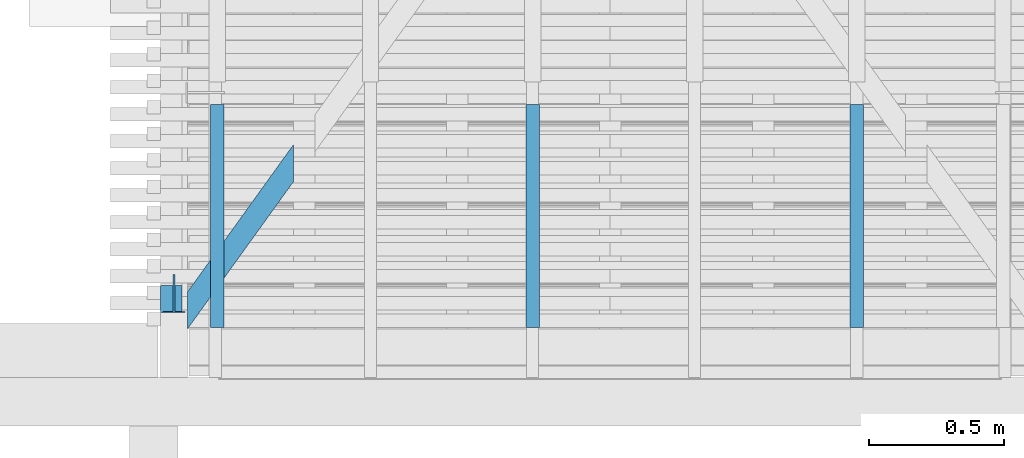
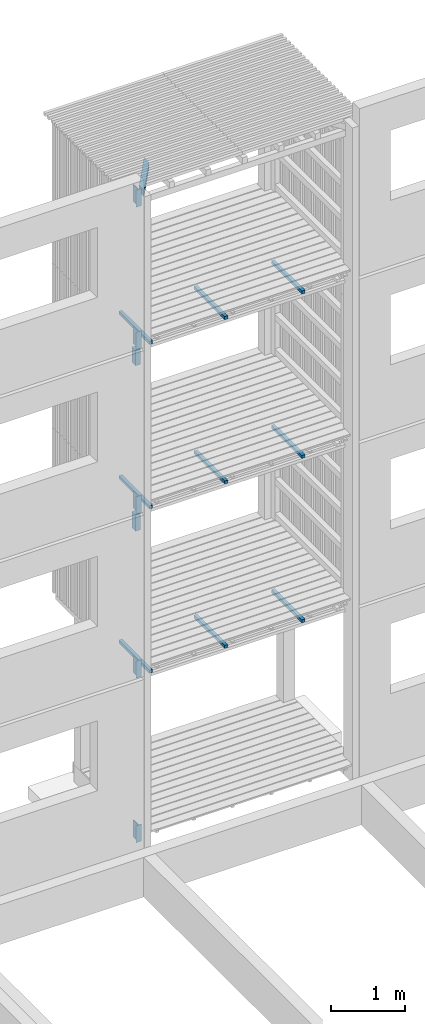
# One storey, part 171 of 182: 17 beams.
"""IFC2X3 building model written with IfcOpenShell, lengths in metres."""

import ifcopenshell
import ifcopenshell.guid

model = None  # the IFC model being written
_history = None  # IfcOwnerHistory: only IFC2X3 demands one
_inside = {}  # id of a spatial element -> (the spatial element, [elements in it])
_under = {}  # id of a project, library or spatial element -> (it, [spatial elements below it])
_declared = {}  # id of a project -> (the project, [libraries it declares])
_typed = {}  # id of a type object -> (the type object, [elements of that type])
_made_of = {}  # id of a material, layer set ... -> (it, [elements and type objects made of it])


def new_model(schema):
    """Start an empty IFC model of exactly this schema.

    Asked for "IFC4X3", IfcOpenShell would pick the latest addendum, in which some entities
    have other attributes; the version numbers below select the first issue.
    IFC2X3 requires an IfcOwnerHistory on every rooted entity: one is made here for all.
    """
    global model, _history
    if schema == "IFC4X3":
        model = ifcopenshell.file(schema_version=(4, 3, 0, 0))
    else:
        model = ifcopenshell.file(schema=schema)
    _inside.clear()
    _under.clear()
    _declared.clear()
    _typed.clear()
    _made_of.clear()
    _history = None
    if model.schema == "IFC2X3":
        org = make("IfcOrganization", Name="unknown")
        user = make(
            "IfcPersonAndOrganization",
            ThePerson=make("IfcPerson", FamilyName="unknown"),
            TheOrganization=org,
        )
        app = make(
            "IfcApplication",
            ApplicationDeveloper=org,
            Version="unknown",
            ApplicationFullName="unknown",
            ApplicationIdentifier="unknown",
        )
        _history = make(
            "IfcOwnerHistory",
            OwningUser=user,
            OwningApplication=app,
            ChangeAction="ADDED",
            CreationDate=0,
        )
    return model


def make(cls, **values):
    """One entity of the class cls with the attributes given. An attribute that is None is left unset."""
    return model.create_entity(
        cls, **{name: value for name, value in values.items() if value is not None}
    )


def rooted(cls, **values):
    """An entity with a GlobalId (a new one), such as an element, a storey or a relation."""
    return make(cls, GlobalId=ifcopenshell.guid.new(), OwnerHistory=_history, **values)


def si_unit(unit_type, name, prefix=None):
    """IfcSIUnit, for example si_unit("LENGTHUNIT", "METRE", prefix="MILLI")."""
    return make("IfcSIUnit", UnitType=unit_type, Prefix=prefix, Name=name)


def assignment(units):
    """IfcUnitAssignment: the units of a project."""
    return None if units is None else make("IfcUnitAssignment", Units=units)


def point(xyz):
    """IfcCartesianPoint."""
    return None if xyz is None else make("IfcCartesianPoint", Coordinates=xyz)


def direction(xyz):
    """IfcDirection."""
    return None if xyz is None else make("IfcDirection", DirectionRatios=xyz)


def frame(location, z_axis=None, x_axis=None):
    """IfcAxis2Placement3D, a coordinate frame: its origin and axes. An axis left out is left unset."""
    return make(
        "IfcAxis2Placement3D",
        Location=point(location),
        Axis=direction(z_axis),
        RefDirection=direction(x_axis),
    )


def origin():
    """The frame at (0, 0, 0) with its axes left unset."""
    return frame((0.0, 0.0, 0.0))


def place(relative_to, where):
    """IfcLocalPlacement: puts the frame where relative to a parent placement (None: the world)."""
    return make(
        "IfcLocalPlacement", PlacementRelTo=relative_to, RelativePlacement=where
    )


def context(
    kind, dimensions, precision=None, world=None, true_north=None, identifier=None
):
    """IfcGeometricRepresentationContext, for example the 3D "Model" context."""
    return make(
        "IfcGeometricRepresentationContext",
        ContextIdentifier=identifier,
        ContextType=kind,
        CoordinateSpaceDimension=dimensions,
        Precision=precision,
        WorldCoordinateSystem=world,
        TrueNorth=true_north,
    )


def project(units=None, contexts=None):
    """IfcProject with its units and contexts."""
    return rooted(
        "IfcProject",
        Name="project",
        RepresentationContexts=contexts,
        UnitsInContext=assignment(units),
    )


def spatial(cls, under=None, at=None, **own):
    """A site, building, storey or space (cls), placed at a placement, below another one or the project."""
    s = rooted(cls, ObjectPlacement=at, **own)
    if under is not None:
        _under.setdefault(under.id(), (under, []))[1].append(s)
    return s


def faces_of(points, faces, orient=None, outer=None):
    """IfcFace entities. A face is a list of loops; a loop is a list of indices into points, from 0.

    orient and outer hold one flag for each loop. By default every Orientation is true, the
    first loop of a face is its IfcFaceOuterBound and the others are IfcFaceBound.
    """
    made = []
    for i, loops in enumerate(faces):
        bounds = []
        for j, loop in enumerate(loops):
            is_outer = j == 0 if outer is None else outer[i][j]
            bounds.append(
                make(
                    "IfcFaceOuterBound" if is_outer else "IfcFaceBound",
                    Bound=make("IfcPolyLoop", Polygon=[points[k] for k in loop]),
                    Orientation=True if orient is None else orient[i][j],
                )
            )
        made.append(make("IfcFace", Bounds=bounds))
    return made


def faceted_brep(points, faces, orient=None, outer=None, voids=None):
    """IfcFacetedBrep: a solid bounded by flat faces; with voids (closed shells), ...WithVoids."""
    shared = [point(p) for p in points]
    hull = make("IfcClosedShell", CfsFaces=faces_of(shared, faces, orient, outer))
    if voids is None:
        return make("IfcFacetedBrep", Outer=hull)
    return make(
        "IfcFacetedBrepWithVoids",
        Outer=hull,
        Voids=[
            make(cls, CfsFaces=faces_of(shared, fs, o, b)) for cls, fs, o, b in voids
        ],
    )


def shape(context_of_items, identifier, shape_type, items):
    """IfcShapeRepresentation: the items that make up one representation, for example the "Body"."""
    return make(
        "IfcShapeRepresentation",
        ContextOfItems=context_of_items,
        RepresentationIdentifier=identifier,
        RepresentationType=shape_type,
        Items=items,
    )


def made_of(thing, what):
    """Note that an element or type object is made of a material, layer set ...; save() writes the relation."""
    if what is not None:
        _made_of.setdefault(what.id(), (what, []))[1].append(thing)
    return thing


def element(
    cls,
    number,
    at=None,
    inside=None,
    cuts=None,
    type_object=None,
    material=None,
    context=None,
    identifier="Body",
    shape_type=None,
    held_by="IfcProductDefinitionShape",
    body=None,
    shapes=None,
    **own,
):
    """One element of the class cls, such as IfcWall. Its Tag is "e" and its number.

    at: its placement. inside: the storey or other place that contains it. cuts: it is an
    opening in that element (IfcRelVoidsElement). A single representation is given by context,
    identifier, shape_type and body (its items); several are given by shapes. held_by: the class
    of the entity that holds the representations. save() writes the other relations.
    """
    e = rooted(cls, Tag="e%d" % number, ObjectPlacement=at, **own)
    if body is not None:
        shapes = [shape(context, identifier, shape_type, body)]
    if shapes is not None:
        e.Representation = make(held_by, Representations=shapes)
    if inside is not None:
        _inside.setdefault(inside.id(), (inside, []))[1].append(e)
    if cuts is not None:
        rooted(
            "IfcRelVoidsElement", RelatingBuildingElement=cuts, RelatedOpeningElement=e
        )
    if type_object is not None:
        _typed.setdefault(type_object.id(), (type_object, []))[1].append(e)
    return made_of(e, material)


def aggregate(whole, parts):
    """IfcRelAggregates: a whole, such as a stair, and the parts it consists of."""
    return rooted("IfcRelAggregates", RelatingObject=whole, RelatedObjects=parts)


def save(model, path):
    """Write the relations noted so far, then the file.

    IfcRelAggregates (storeys below a building ...), IfcRelContainedInSpatialStructure (elements
    in a storey), IfcRelDefinesByType, IfcRelAssociatesMaterial and IfcRelDeclares: one each for
    every whole, place, type object, material and project.
    """
    for whole, parts in _under.values():
        aggregate(whole, parts)
    for where, things in _inside.values():
        rooted(
            "IfcRelContainedInSpatialStructure",
            RelatedElements=things,
            RelatingStructure=where,
        )
    for kind, things in _typed.values():
        rooted("IfcRelDefinesByType", RelatedObjects=things, RelatingType=kind)
    for what, things in _made_of.values():
        rooted("IfcRelAssociatesMaterial", RelatedObjects=things, RelatingMaterial=what)
    for by, libraries in _declared.values():
        rooted("IfcRelDeclares", RelatingContext=by, RelatedDefinitions=libraries)
    model.write(path)


model = new_model("IFC2X3")

# Units and contexts
model_context = context("Model", 3, precision=1e-06, world=origin())
ifc_project = project(units=[si_unit("LENGTHUNIT", "METRE"), si_unit("PLANEANGLEUNIT", "RADIAN")], contexts=[model_context])

# Site, building, storey
site = spatial("IfcSite", under=ifc_project, CompositionType="ELEMENT")
building = spatial("IfcBuilding", under=site, CompositionType="ELEMENT")
storey = spatial("IfcBuildingStorey", under=building, Name="vs", CompositionType="ELEMENT", Elevation=-0.85)

# Beams
placement = place(None, origin())
beam_1_placement = place(placement, frame((43.02440135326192, 5.181077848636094, 10.314999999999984), z_axis=(0.0, 0.0, 1.0), x_axis=(1.0, 0.0, 0.0)))
element("IfcBeam", 1, at=beam_1_placement, inside=storey, Name="Contre-usinage", context=model_context, shape_type="Brep", body=[
    faceted_brep([(0.037000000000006, -0.065999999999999, -0.140000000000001), (0.037000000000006, 0.071000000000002, -0.140000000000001), (0.045000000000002, 0.071000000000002, -0.140000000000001), (0.045000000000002, -0.065999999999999, -0.140000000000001), (0.081999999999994, -0.065999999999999, -0.140000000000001), (0.081999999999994, -0.071000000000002, -0.140000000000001), (0.0, -0.071000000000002, -0.140000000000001), (0.0, -0.065999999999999, -0.140000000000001), (0.045000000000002, 0.071000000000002, -0.140000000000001), (0.037000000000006, 0.071000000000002, -0.140000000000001), (0.037000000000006, 0.071000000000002, 0.140000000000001), (0.045000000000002, 0.071000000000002, 0.140000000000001), (0.045000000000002, -0.065999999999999, 0.140000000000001), (0.045000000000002, -0.065999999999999, -0.140000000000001), (0.045000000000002, 0.071000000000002, -0.140000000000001), (0.045000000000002, 0.071000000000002, 0.140000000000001), (0.081999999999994, -0.065999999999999, -0.140000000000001), (0.045000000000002, -0.065999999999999, -0.140000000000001), (0.045000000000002, -0.065999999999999, 0.140000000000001), (0.081999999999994, -0.065999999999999, 0.140000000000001), (0.081999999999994, -0.071000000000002, -0.140000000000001), (0.081999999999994, -0.065999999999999, -0.140000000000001), (0.081999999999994, -0.065999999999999, 0.140000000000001), (0.081999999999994, -0.071000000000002, 0.140000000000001), (0.0, -0.071000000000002, -0.140000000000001), (0.081999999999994, -0.071000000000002, -0.140000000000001), (0.081999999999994, -0.071000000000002, 0.140000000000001), (0.0, -0.071000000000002, 0.140000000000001), (0.0, -0.065999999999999, -0.140000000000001), (0.0, -0.071000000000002, -0.140000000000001), (0.0, -0.071000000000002, 0.140000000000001), (0.0, -0.065999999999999, 0.140000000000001), (0.037000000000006, -0.065999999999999, -0.140000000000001), (0.0, -0.065999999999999, -0.140000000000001), (0.0, -0.065999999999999, 0.140000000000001), (0.037000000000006, -0.065999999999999, 0.140000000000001), (0.037000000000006, 0.071000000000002, 0.140000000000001), (0.037000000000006, 0.071000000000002, -0.140000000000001), (0.037000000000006, -0.065999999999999, -0.140000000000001), (0.037000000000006, -0.065999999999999, 0.140000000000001), (0.081999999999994, -0.065999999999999, 0.140000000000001), (0.045000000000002, -0.065999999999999, 0.140000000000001), (0.045000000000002, 0.071000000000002, 0.140000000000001), (0.037000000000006, 0.071000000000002, 0.140000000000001), (0.037000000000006, -0.065999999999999, 0.140000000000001), (0.0, -0.065999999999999, 0.140000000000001), (0.0, -0.071000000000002, 0.140000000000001), (0.081999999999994, -0.071000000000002, 0.140000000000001)], [[[0, 1, 2, 3, 4, 5, 6, 7]], [[8, 9, 10, 11]], [[12, 13, 14, 15]], [[16, 17, 18, 19]], [[20, 21, 22, 23]], [[24, 25, 26, 27]], [[28, 29, 30, 31]], [[32, 33, 34, 35]], [[36, 37, 38, 39]], [[40, 41, 42, 43, 44, 45, 46, 47]]]),
])
beam_2_placement = place(placement, frame((43.225401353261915, 5.055077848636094, 2.517999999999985), z_axis=(0.0, 0.0, 1.0), x_axis=(0.0, 1.0, 0.0)))
element("IfcBeam", 2, at=beam_2_placement, inside=storey, Name="Calage", context=model_context, shape_type="Brep", body=[
    faceted_brep([(0.824999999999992, -0.025000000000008, 0.025), (0.824999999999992, 0.024999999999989, 0.025), (-1e-15, 0.024999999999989, 0.025), (-1e-15, -0.025000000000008, 0.025), (-1e-15, 0.024999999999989, 0.025), (0.824999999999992, 0.024999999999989, 0.025), (0.824999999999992, 0.024999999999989, -0.025), (-1e-15, 0.024999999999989, -0.025), (0.824999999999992, 0.024999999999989, 0.025), (0.824999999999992, -0.025000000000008, 0.025), (0.824999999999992, -0.025000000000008, -0.025), (0.824999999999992, 0.024999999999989, -0.025), (0.824999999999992, -0.025000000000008, -0.025), (0.824999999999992, -0.025000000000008, 0.025), (-1e-15, -0.025000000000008, 0.025), (-1e-15, -0.025000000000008, -0.025), (-1e-15, 0.024999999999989, -0.025), (0.824999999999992, 0.024999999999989, -0.025), (0.824999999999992, -0.025000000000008, -0.025), (-1e-15, -0.025000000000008, -0.025), (-1e-15, 0.024999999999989, 0.025), (-1e-15, 0.024999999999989, -0.025), (-1e-15, -0.025000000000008, -0.025), (-1e-15, -0.025000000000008, 0.025)], [[[0, 1, 2, 3]], [[4, 5, 6, 7]], [[8, 9, 10, 11]], [[12, 13, 14, 15]], [[16, 17, 18, 19]], [[20, 21, 22, 23]]]),
])
beam_3_placement = place(placement, frame((44.39340135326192, 5.055077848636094, 7.917999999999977), z_axis=(0.0, 0.0, 1.0), x_axis=(0.0, 1.0, 0.0)))
element("IfcBeam", 3, at=beam_3_placement, inside=storey, Name="Calage", context=model_context, shape_type="Brep", body=[
    faceted_brep([(0.824999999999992, -0.024999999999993, 0.024999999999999), (0.824999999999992, 0.025000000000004, 0.024999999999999), (-1e-15, 0.025000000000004, 0.024999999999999), (-1e-15, -0.024999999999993, 0.024999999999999), (-1e-15, 0.025000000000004, 0.024999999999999), (0.824999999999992, 0.025000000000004, 0.024999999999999), (0.824999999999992, 0.025000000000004, -0.025), (-1e-15, 0.025000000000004, -0.025), (0.824999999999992, 0.025000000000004, 0.024999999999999), (0.824999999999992, -0.024999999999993, 0.024999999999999), (0.824999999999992, -0.024999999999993, -0.025), (0.824999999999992, 0.025000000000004, -0.025), (0.824999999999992, -0.024999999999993, -0.025), (0.824999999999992, -0.024999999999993, 0.024999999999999), (-1e-15, -0.024999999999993, 0.024999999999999), (-1e-15, -0.024999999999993, -0.025), (-1e-15, 0.025000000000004, -0.025), (0.824999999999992, 0.025000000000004, -0.025), (0.824999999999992, -0.024999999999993, -0.025), (-1e-15, -0.024999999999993, -0.025), (-1e-15, 0.025000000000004, 0.024999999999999), (-1e-15, 0.025000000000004, -0.025), (-1e-15, -0.024999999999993, -0.025), (-1e-15, -0.024999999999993, 0.024999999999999)], [[[0, 1, 2, 3]], [[4, 5, 6, 7]], [[8, 9, 10, 11]], [[12, 13, 14, 15]], [[16, 17, 18, 19]], [[20, 21, 22, 23]]]),
])
beam_4_placement = place(placement, frame((45.59340135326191, 5.055077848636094, 7.917999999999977), z_axis=(0.0, 0.0, 1.0), x_axis=(0.0, 1.0, 0.0)))
element("IfcBeam", 4, at=beam_4_placement, inside=storey, Name="Calage", context=model_context, shape_type="Brep", body=[
    faceted_brep([(0.824999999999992, -0.025000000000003, 0.024999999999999), (0.824999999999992, 0.024999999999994, 0.024999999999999), (-1e-15, 0.024999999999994, 0.024999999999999), (-1e-15, -0.025000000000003, 0.024999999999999), (-1e-15, 0.024999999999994, 0.024999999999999), (0.824999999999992, 0.024999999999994, 0.024999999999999), (0.824999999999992, 0.024999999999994, -0.025), (-1e-15, 0.024999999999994, -0.025), (0.824999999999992, 0.024999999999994, 0.024999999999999), (0.824999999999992, -0.025000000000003, 0.024999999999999), (0.824999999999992, -0.025000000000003, -0.025), (0.824999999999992, 0.024999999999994, -0.025), (0.824999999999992, -0.025000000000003, -0.025), (0.824999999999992, -0.025000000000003, 0.024999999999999), (-1e-15, -0.025000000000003, 0.024999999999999), (-1e-15, -0.025000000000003, -0.025), (-1e-15, 0.024999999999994, -0.025), (0.824999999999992, 0.024999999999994, -0.025), (0.824999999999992, -0.025000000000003, -0.025), (-1e-15, -0.025000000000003, -0.025), (-1e-15, 0.024999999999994, 0.024999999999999), (-1e-15, 0.024999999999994, -0.025), (-1e-15, -0.025000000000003, -0.025), (-1e-15, -0.025000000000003, 0.024999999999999)], [[[0, 1, 2, 3]], [[4, 5, 6, 7]], [[8, 9, 10, 11]], [[12, 13, 14, 15]], [[16, 17, 18, 19]], [[20, 21, 22, 23]]]),
])
beam_5_placement = place(placement, frame((43.02440135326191, 5.181077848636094, 5.279999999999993), z_axis=(0.0, 0.0, 1.0), x_axis=(1.0, 0.0, 0.0)))
element("IfcBeam", 5, at=beam_5_placement, inside=storey, Name="Contre-usinage", context=model_context, shape_type="Brep", body=[
    faceted_brep([(0.037000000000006, -0.065999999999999, -0.140000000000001), (0.037000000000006, 0.071000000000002, -0.140000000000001), (0.045000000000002, 0.071000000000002, -0.140000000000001), (0.045000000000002, -0.065999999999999, -0.140000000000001), (0.082000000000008, -0.065999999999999, -0.140000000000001), (0.082000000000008, -0.071000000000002, -0.140000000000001), (0.0, -0.071000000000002, -0.140000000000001), (0.0, -0.065999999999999, -0.140000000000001), (0.045000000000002, 0.071000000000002, -0.140000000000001), (0.037000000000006, 0.071000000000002, -0.140000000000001), (0.037000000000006, 0.071000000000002, 0.140000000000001), (0.045000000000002, 0.071000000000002, 0.140000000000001), (0.045000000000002, -0.065999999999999, 0.140000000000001), (0.045000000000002, -0.065999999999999, -0.140000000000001), (0.045000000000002, 0.071000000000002, -0.140000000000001), (0.045000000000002, 0.071000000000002, 0.140000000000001), (0.082000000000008, -0.065999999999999, -0.140000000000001), (0.045000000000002, -0.065999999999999, -0.140000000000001), (0.045000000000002, -0.065999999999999, 0.140000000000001), (0.082000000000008, -0.065999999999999, 0.140000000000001), (0.082000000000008, -0.071000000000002, -0.140000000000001), (0.082000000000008, -0.065999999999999, -0.140000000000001), (0.082000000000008, -0.065999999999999, 0.140000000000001), (0.082000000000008, -0.071000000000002, 0.140000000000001), (0.0, -0.071000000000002, -0.140000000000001), (0.082000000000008, -0.071000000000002, -0.140000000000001), (0.082000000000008, -0.071000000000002, 0.140000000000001), (0.0, -0.071000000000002, 0.140000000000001), (0.0, -0.065999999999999, -0.140000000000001), (0.0, -0.071000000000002, -0.140000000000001), (0.0, -0.071000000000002, 0.140000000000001), (0.0, -0.065999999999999, 0.140000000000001), (0.037000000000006, -0.065999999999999, -0.140000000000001), (0.0, -0.065999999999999, -0.140000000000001), (0.0, -0.065999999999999, 0.140000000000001), (0.037000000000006, -0.065999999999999, 0.140000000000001), (0.037000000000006, 0.071000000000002, 0.140000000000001), (0.037000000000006, 0.071000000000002, -0.140000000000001), (0.037000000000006, -0.065999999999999, -0.140000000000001), (0.037000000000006, -0.065999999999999, 0.140000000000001), (0.082000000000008, -0.065999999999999, 0.140000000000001), (0.045000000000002, -0.065999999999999, 0.140000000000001), (0.045000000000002, 0.071000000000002, 0.140000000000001), (0.037000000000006, 0.071000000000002, 0.140000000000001), (0.037000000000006, -0.065999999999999, 0.140000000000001), (0.0, -0.065999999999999, 0.140000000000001), (0.0, -0.071000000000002, 0.140000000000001), (0.082000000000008, -0.071000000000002, 0.140000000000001)], [[[0, 1, 2, 3, 4, 5, 6, 7]], [[8, 9, 10, 11]], [[12, 13, 14, 15]], [[16, 17, 18, 19]], [[20, 21, 22, 23]], [[24, 25, 26, 27]], [[28, 29, 30, 31]], [[32, 33, 34, 35]], [[36, 37, 38, 39]], [[40, 41, 42, 43, 44, 45, 46, 47]]]),
])
beam_6_placement = place(placement, frame((44.39340135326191, 5.055077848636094, 5.217999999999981), z_axis=(0.0, 0.0, 1.0), x_axis=(0.0, 1.0, 0.0)))
element("IfcBeam", 6, at=beam_6_placement, inside=storey, Name="Calage", context=model_context, shape_type="Brep", body=[
    faceted_brep([(0.824999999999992, -0.025000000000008, 0.024999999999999), (0.824999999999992, 0.024999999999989, 0.024999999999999), (-1e-15, 0.024999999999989, 0.024999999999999), (-1e-15, -0.025000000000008, 0.024999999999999), (-1e-15, 0.024999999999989, 0.024999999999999), (0.824999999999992, 0.024999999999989, 0.024999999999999), (0.824999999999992, 0.024999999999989, -0.025), (-1e-15, 0.024999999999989, -0.025), (0.824999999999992, 0.024999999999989, 0.024999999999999), (0.824999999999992, -0.025000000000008, 0.024999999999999), (0.824999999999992, -0.025000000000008, -0.025), (0.824999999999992, 0.024999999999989, -0.025), (0.824999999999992, -0.025000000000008, -0.025), (0.824999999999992, -0.025000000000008, 0.024999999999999), (-1e-15, -0.025000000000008, 0.024999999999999), (-1e-15, -0.025000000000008, -0.025), (-1e-15, 0.024999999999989, -0.025), (0.824999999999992, 0.024999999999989, -0.025), (0.824999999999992, -0.025000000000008, -0.025), (-1e-15, -0.025000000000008, -0.025), (-1e-15, 0.024999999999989, 0.024999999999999), (-1e-15, 0.024999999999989, -0.025), (-1e-15, -0.025000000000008, -0.025), (-1e-15, -0.025000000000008, 0.024999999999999)], [[[0, 1, 2, 3]], [[4, 5, 6, 7]], [[8, 9, 10, 11]], [[12, 13, 14, 15]], [[16, 17, 18, 19]], [[20, 21, 22, 23]]]),
])
beam_7_placement = place(placement, frame((43.055401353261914, 5.160077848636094, 7.576188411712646), z_axis=(0.0, 1.0, 0.0), x_axis=(0.0, 0.0, 1.0)))
element("IfcBeam", 7, at=beam_7_placement, inside=storey, Name="Support bardage", context=model_context, shape_type="Brep", body=[
    faceted_brep([(0.248811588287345, -0.039999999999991, 0.05), (0.248811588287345, -0.039999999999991, -0.050000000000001), (0.248811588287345, 0.040000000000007, -0.050000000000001), (0.248811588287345, 0.040000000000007, 0.05), (0.248811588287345, 0.040000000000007, -0.050000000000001), (0.248811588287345, -0.039999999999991, -0.050000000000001), (0.0, -0.039999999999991, -0.050000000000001), (0.0, 0.040000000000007, -0.050000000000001), (0.248811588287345, -0.039999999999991, -0.050000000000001), (0.248811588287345, -0.039999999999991, 0.05), (0.0, -0.039999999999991, 0.05), (0.0, -0.039999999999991, -0.050000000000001), (0.248811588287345, -0.039999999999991, 0.05), (0.248811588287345, 0.040000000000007, 0.05), (0.0, 0.040000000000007, 0.05), (0.0, -0.039999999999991, 0.05), (0.248811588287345, 0.040000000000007, 0.05), (0.248811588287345, 0.040000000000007, -0.050000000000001), (0.0, 0.040000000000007, -0.050000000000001), (0.0, 0.040000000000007, 0.05), (0.0, -0.039999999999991, 0.05), (0.0, 0.040000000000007, 0.05), (0.0, 0.040000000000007, -0.050000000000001), (0.0, -0.039999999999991, -0.050000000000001)], [[[0, 1, 2, 3]], [[4, 5, 6, 7]], [[8, 9, 10, 11]], [[12, 13, 14, 15]], [[16, 17, 18, 19]], [[20, 21, 22, 23]]]),
])
beam_8_placement = place(placement, frame((45.59340135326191, 5.055077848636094, 5.217999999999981), z_axis=(0.0, 0.0, 1.0), x_axis=(0.0, 1.0, 0.0)))
element("IfcBeam", 8, at=beam_8_placement, inside=storey, Name="Calage", context=model_context, shape_type="Brep", body=[
    faceted_brep([(0.824999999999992, -0.025000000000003, 0.024999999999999), (0.824999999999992, 0.024999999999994, 0.024999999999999), (-1e-15, 0.024999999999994, 0.024999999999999), (-1e-15, -0.025000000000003, 0.024999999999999), (-1e-15, 0.024999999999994, 0.024999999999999), (0.824999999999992, 0.024999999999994, 0.024999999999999), (0.824999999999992, 0.024999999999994, -0.025), (-1e-15, 0.024999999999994, -0.025), (0.824999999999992, 0.024999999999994, 0.024999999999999), (0.824999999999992, -0.025000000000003, 0.024999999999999), (0.824999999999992, -0.025000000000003, -0.025), (0.824999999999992, 0.024999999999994, -0.025), (0.824999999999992, -0.025000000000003, -0.025), (0.824999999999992, -0.025000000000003, 0.024999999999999), (-1e-15, -0.025000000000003, 0.024999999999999), (-1e-15, -0.025000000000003, -0.025), (-1e-15, 0.024999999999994, -0.025), (0.824999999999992, 0.024999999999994, -0.025), (0.824999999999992, -0.025000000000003, -0.025), (-1e-15, -0.025000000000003, -0.025), (-1e-15, 0.024999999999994, 0.024999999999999), (-1e-15, 0.024999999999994, -0.025), (-1e-15, -0.025000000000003, -0.025), (-1e-15, -0.025000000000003, 0.024999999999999)], [[[0, 1, 2, 3]], [[4, 5, 6, 7]], [[8, 9, 10, 11]], [[12, 13, 14, 15]], [[16, 17, 18, 19]], [[20, 21, 22, 23]]]),
])
beam_9_placement = place(placement, frame((45.59340135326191, 5.055077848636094, 2.517999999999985), z_axis=(0.0, 0.0, 1.0), x_axis=(0.0, 1.0, 0.0)))
element("IfcBeam", 9, at=beam_9_placement, inside=storey, Name="Calage", context=model_context, shape_type="Brep", body=[
    faceted_brep([(0.824999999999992, -0.025000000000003, 0.025), (0.824999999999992, 0.024999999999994, 0.025), (-1e-15, 0.024999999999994, 0.025), (-1e-15, -0.025000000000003, 0.025), (-1e-15, 0.024999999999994, 0.025), (0.824999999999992, 0.024999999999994, 0.025), (0.824999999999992, 0.024999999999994, -0.025), (-1e-15, 0.024999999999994, -0.025), (0.824999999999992, 0.024999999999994, 0.025), (0.824999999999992, -0.025000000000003, 0.025), (0.824999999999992, -0.025000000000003, -0.025), (0.824999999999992, 0.024999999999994, -0.025), (0.824999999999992, -0.025000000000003, -0.025), (0.824999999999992, -0.025000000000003, 0.025), (-1e-15, -0.025000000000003, 0.025), (-1e-15, -0.025000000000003, -0.025), (-1e-15, 0.024999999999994, -0.025), (0.824999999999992, 0.024999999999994, -0.025), (0.824999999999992, -0.025000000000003, -0.025), (-1e-15, -0.025000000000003, -0.025), (-1e-15, 0.024999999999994, 0.025), (-1e-15, 0.024999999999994, -0.025), (-1e-15, -0.025000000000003, -0.025), (-1e-15, -0.025000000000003, 0.025)], [[[0, 1, 2, 3]], [[4, 5, 6, 7]], [[8, 9, 10, 11]], [[12, 13, 14, 15]], [[16, 17, 18, 19]], [[20, 21, 22, 23]]]),
])
beam_10_placement = place(placement, frame((43.02440135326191, 5.181077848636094, -0.119999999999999), z_axis=(0.0, 0.0, 1.0), x_axis=(1.0, 0.0, 0.0)))
element("IfcBeam", 10, at=beam_10_placement, inside=storey, Name="Contre-usinage", context=model_context, shape_type="Brep", body=[
    faceted_brep([(0.037000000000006, -0.065999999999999, -0.14), (0.037000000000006, 0.071000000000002, -0.14), (0.045000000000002, 0.071000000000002, -0.14), (0.045000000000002, -0.065999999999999, -0.14), (0.082000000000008, -0.065999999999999, -0.14), (0.082000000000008, -0.071000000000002, -0.14), (0.0, -0.071000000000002, -0.14), (0.0, -0.065999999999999, -0.14), (0.045000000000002, 0.071000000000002, -0.14), (0.037000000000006, 0.071000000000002, -0.14), (0.037000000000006, 0.071000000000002, 0.14), (0.045000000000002, 0.071000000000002, 0.14), (0.045000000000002, -0.065999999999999, 0.14), (0.045000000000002, -0.065999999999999, -0.14), (0.045000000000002, 0.071000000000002, -0.14), (0.045000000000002, 0.071000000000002, 0.14), (0.082000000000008, -0.065999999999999, -0.14), (0.045000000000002, -0.065999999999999, -0.14), (0.045000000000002, -0.065999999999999, 0.14), (0.082000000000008, -0.065999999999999, 0.14), (0.082000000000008, -0.071000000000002, -0.14), (0.082000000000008, -0.065999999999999, -0.14), (0.082000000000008, -0.065999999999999, 0.14), (0.082000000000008, -0.071000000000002, 0.14), (0.0, -0.071000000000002, -0.14), (0.082000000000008, -0.071000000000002, -0.14), (0.082000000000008, -0.071000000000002, 0.14), (0.0, -0.071000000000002, 0.14), (0.0, -0.065999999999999, -0.14), (0.0, -0.071000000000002, -0.14), (0.0, -0.071000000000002, 0.14), (0.0, -0.065999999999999, 0.14), (0.037000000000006, -0.065999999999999, -0.14), (0.0, -0.065999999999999, -0.14), (0.0, -0.065999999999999, 0.14), (0.037000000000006, -0.065999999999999, 0.14), (0.037000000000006, 0.071000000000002, 0.14), (0.037000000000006, 0.071000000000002, -0.14), (0.037000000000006, -0.065999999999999, -0.14), (0.037000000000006, -0.065999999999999, 0.14), (0.082000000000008, -0.065999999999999, 0.14), (0.045000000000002, -0.065999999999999, 0.14), (0.045000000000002, 0.071000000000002, 0.14), (0.037000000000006, 0.071000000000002, 0.14), (0.037000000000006, -0.065999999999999, 0.14), (0.0, -0.065999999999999, 0.14), (0.0, -0.071000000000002, 0.14), (0.082000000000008, -0.071000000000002, 0.14)], [[[0, 1, 2, 3, 4, 5, 6, 7]], [[8, 9, 10, 11]], [[12, 13, 14, 15]], [[16, 17, 18, 19]], [[20, 21, 22, 23]], [[24, 25, 26, 27]], [[28, 29, 30, 31]], [[32, 33, 34, 35]], [[36, 37, 38, 39]], [[40, 41, 42, 43, 44, 45, 46, 47]]]),
])
beam_11_placement = place(placement, frame((43.225401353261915, 5.055077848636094, 7.917999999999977), z_axis=(0.0, 0.0, 1.0), x_axis=(0.0, 1.0, 0.0)))
element("IfcBeam", 11, at=beam_11_placement, inside=storey, Name="Calage", context=model_context, shape_type="Brep", body=[
    faceted_brep([(0.824999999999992, -0.025000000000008, 0.024999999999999), (0.824999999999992, 0.024999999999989, 0.024999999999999), (-1e-15, 0.024999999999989, 0.024999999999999), (-1e-15, -0.025000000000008, 0.024999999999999), (-1e-15, 0.024999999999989, 0.024999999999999), (0.824999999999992, 0.024999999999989, 0.024999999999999), (0.824999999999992, 0.024999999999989, -0.025), (-1e-15, 0.024999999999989, -0.025), (0.824999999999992, 0.024999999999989, 0.024999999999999), (0.824999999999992, -0.025000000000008, 0.024999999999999), (0.824999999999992, -0.025000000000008, -0.025), (0.824999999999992, 0.024999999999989, -0.025), (0.824999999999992, -0.025000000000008, -0.025), (0.824999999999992, -0.025000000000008, 0.024999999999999), (-1e-15, -0.025000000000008, 0.024999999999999), (-1e-15, -0.025000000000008, -0.025), (-1e-15, 0.024999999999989, -0.025), (0.824999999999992, 0.024999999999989, -0.025), (0.824999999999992, -0.025000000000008, -0.025), (-1e-15, -0.025000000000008, -0.025), (-1e-15, 0.024999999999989, 0.024999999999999), (-1e-15, 0.024999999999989, -0.025), (-1e-15, -0.025000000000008, -0.025), (-1e-15, -0.025000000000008, 0.024999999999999)], [[[0, 1, 2, 3]], [[4, 5, 6, 7]], [[8, 9, 10, 11]], [[12, 13, 14, 15]], [[16, 17, 18, 19]], [[20, 21, 22, 23]]]),
])
beam_12_placement = place(placement, frame((43.02440135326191, 5.181077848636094, 2.579999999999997), z_axis=(0.0, 0.0, 1.0), x_axis=(1.0, 0.0, 0.0)))
element("IfcBeam", 12, at=beam_12_placement, inside=storey, Name="Contre-usinage", context=model_context, shape_type="Brep", body=[
    faceted_brep([(0.037000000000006, -0.065999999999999, -0.14), (0.037000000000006, 0.071000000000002, -0.14), (0.045000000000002, 0.071000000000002, -0.14), (0.045000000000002, -0.065999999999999, -0.14), (0.082000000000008, -0.065999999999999, -0.14), (0.082000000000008, -0.071000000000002, -0.14), (0.0, -0.071000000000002, -0.14), (0.0, -0.065999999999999, -0.14), (0.045000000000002, 0.071000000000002, -0.14), (0.037000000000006, 0.071000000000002, -0.14), (0.037000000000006, 0.071000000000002, 0.14), (0.045000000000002, 0.071000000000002, 0.14), (0.045000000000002, -0.065999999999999, 0.14), (0.045000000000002, -0.065999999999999, -0.14), (0.045000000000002, 0.071000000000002, -0.14), (0.045000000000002, 0.071000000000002, 0.14), (0.082000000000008, -0.065999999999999, -0.14), (0.045000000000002, -0.065999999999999, -0.14), (0.045000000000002, -0.065999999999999, 0.14), (0.082000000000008, -0.065999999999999, 0.14), (0.082000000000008, -0.071000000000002, -0.14), (0.082000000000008, -0.065999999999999, -0.14), (0.082000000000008, -0.065999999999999, 0.14), (0.082000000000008, -0.071000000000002, 0.14), (0.0, -0.071000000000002, -0.14), (0.082000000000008, -0.071000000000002, -0.14), (0.082000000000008, -0.071000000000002, 0.14), (0.0, -0.071000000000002, 0.14), (0.0, -0.065999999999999, -0.14), (0.0, -0.071000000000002, -0.14), (0.0, -0.071000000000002, 0.14), (0.0, -0.065999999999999, 0.14), (0.037000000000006, -0.065999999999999, -0.14), (0.0, -0.065999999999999, -0.14), (0.0, -0.065999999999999, 0.14), (0.037000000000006, -0.065999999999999, 0.14), (0.037000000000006, 0.071000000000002, 0.14), (0.037000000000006, 0.071000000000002, -0.14), (0.037000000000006, -0.065999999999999, -0.14), (0.037000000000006, -0.065999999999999, 0.14), (0.082000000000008, -0.065999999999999, 0.14), (0.045000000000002, -0.065999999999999, 0.14), (0.045000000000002, 0.071000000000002, 0.14), (0.037000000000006, 0.071000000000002, 0.14), (0.037000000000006, -0.065999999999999, 0.14), (0.0, -0.065999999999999, 0.14), (0.0, -0.071000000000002, 0.14), (0.082000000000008, -0.071000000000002, 0.14)], [[[0, 1, 2, 3, 4, 5, 6, 7]], [[8, 9, 10, 11]], [[12, 13, 14, 15]], [[16, 17, 18, 19]], [[20, 21, 22, 23]], [[24, 25, 26, 27]], [[28, 29, 30, 31]], [[32, 33, 34, 35]], [[36, 37, 38, 39]], [[40, 41, 42, 43, 44, 45, 46, 47]]]),
])
beam_13_placement = place(placement, frame((43.08292981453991, 5.073435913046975, 10.404999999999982), z_axis=(0.0, 0.0, 1.0), x_axis=(0.583951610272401, 0.811788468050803, 0.0)))
element("IfcBeam", 13, at=beam_13_placement, inside=storey, Name="Support bardage", context=model_context, shape_type="Brep", body=[
    faceted_brep([(0.670717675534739, -0.039999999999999, 0.050000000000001), (0.670717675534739, -0.039999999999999, -0.050000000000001), (0.781930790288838, 0.040000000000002, -0.050000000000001), (0.781930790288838, 0.040000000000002, 0.050000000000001), (4e-15, -0.040000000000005, 0.050000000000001), (0.670717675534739, -0.039999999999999, 0.050000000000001), (0.781930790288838, 0.040000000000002, 0.050000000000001), (0.111213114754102, 0.039999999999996, 0.050000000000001), (0.111213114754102, 0.039999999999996, -0.049999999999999), (0.781930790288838, 0.040000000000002, -0.050000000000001), (0.670717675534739, -0.039999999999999, -0.050000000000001), (4e-15, -0.040000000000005, -0.050000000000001), (4e-15, -0.040000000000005, -0.050000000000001), (0.670717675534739, -0.039999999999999, -0.050000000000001), (0.670717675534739, -0.039999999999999, 0.050000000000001), (4e-15, -0.040000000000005, 0.050000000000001), (0.111213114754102, 0.039999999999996, -0.049999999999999), (4e-15, -0.040000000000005, -0.050000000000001), (4e-15, -0.040000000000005, 0.050000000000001), (0.111213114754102, 0.039999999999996, 0.050000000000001), (0.111213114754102, 0.039999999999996, -0.049999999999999), (0.111213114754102, 0.039999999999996, 0.050000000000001), (0.781930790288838, 0.040000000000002, 0.050000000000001), (0.781930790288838, 0.040000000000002, -0.050000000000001)], [[[0, 1, 2, 3]], [[4, 5, 6, 7]], [[8, 9, 10, 11]], [[12, 13, 14, 15]], [[16, 17, 18, 19]], [[20, 21, 22, 23]]]),
])
beam_14_placement = place(placement, frame((43.225401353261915, 5.055077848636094, 5.217999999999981), z_axis=(0.0, 0.0, 1.0), x_axis=(0.0, 1.0, 0.0)))
element("IfcBeam", 14, at=beam_14_placement, inside=storey, Name="Calage", context=model_context, shape_type="Brep", body=[
    faceted_brep([(0.824999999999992, -0.025000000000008, 0.024999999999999), (0.824999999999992, 0.024999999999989, 0.024999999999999), (-1e-15, 0.024999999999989, 0.024999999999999), (-1e-15, -0.025000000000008, 0.024999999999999), (-1e-15, 0.024999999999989, 0.024999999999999), (0.824999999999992, 0.024999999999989, 0.024999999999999), (0.824999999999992, 0.024999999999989, -0.025), (-1e-15, 0.024999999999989, -0.025), (0.824999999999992, 0.024999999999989, 0.024999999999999), (0.824999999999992, -0.025000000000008, 0.024999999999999), (0.824999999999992, -0.025000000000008, -0.025), (0.824999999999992, 0.024999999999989, -0.025), (0.824999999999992, -0.025000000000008, -0.025), (0.824999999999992, -0.025000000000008, 0.024999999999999), (-1e-15, -0.025000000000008, 0.024999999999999), (-1e-15, -0.025000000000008, -0.025), (-1e-15, 0.024999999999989, -0.025), (0.824999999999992, 0.024999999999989, -0.025), (0.824999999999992, -0.025000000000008, -0.025), (-1e-15, -0.025000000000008, -0.025), (-1e-15, 0.024999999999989, 0.024999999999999), (-1e-15, 0.024999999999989, -0.025), (-1e-15, -0.025000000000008, -0.025), (-1e-15, -0.025000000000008, 0.024999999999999)], [[[0, 1, 2, 3]], [[4, 5, 6, 7]], [[8, 9, 10, 11]], [[12, 13, 14, 15]], [[16, 17, 18, 19]], [[20, 21, 22, 23]]]),
])
beam_15_placement = place(placement, frame((43.02440135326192, 5.181077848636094, 7.979999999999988), z_axis=(0.0, 0.0, 1.0), x_axis=(1.0, 0.0, 0.0)))
element("IfcBeam", 15, at=beam_15_placement, inside=storey, Name="Contre-usinage", context=model_context, shape_type="Brep", body=[
    faceted_brep([(0.036999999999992, -0.065999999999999, -0.14), (0.036999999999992, 0.071000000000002, -0.14), (0.044999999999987, 0.071000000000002, -0.14), (0.044999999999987, -0.065999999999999, -0.14), (0.081999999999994, -0.065999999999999, -0.14), (0.081999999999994, -0.071000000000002, -0.14), (0.0, -0.071000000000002, -0.14), (0.0, -0.065999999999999, -0.14), (0.044999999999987, 0.071000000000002, -0.14), (0.036999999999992, 0.071000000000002, -0.14), (0.036999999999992, 0.071000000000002, 0.140000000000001), (0.044999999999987, 0.071000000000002, 0.140000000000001), (0.044999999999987, -0.065999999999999, 0.140000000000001), (0.044999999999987, -0.065999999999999, -0.14), (0.044999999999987, 0.071000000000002, -0.14), (0.044999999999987, 0.071000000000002, 0.140000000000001), (0.081999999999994, -0.065999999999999, -0.14), (0.044999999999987, -0.065999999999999, -0.14), (0.044999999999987, -0.065999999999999, 0.140000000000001), (0.081999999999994, -0.065999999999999, 0.140000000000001), (0.081999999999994, -0.071000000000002, -0.14), (0.081999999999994, -0.065999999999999, -0.14), (0.081999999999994, -0.065999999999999, 0.140000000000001), (0.081999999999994, -0.071000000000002, 0.140000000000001), (0.0, -0.071000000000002, -0.14), (0.081999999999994, -0.071000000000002, -0.14), (0.081999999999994, -0.071000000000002, 0.140000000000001), (0.0, -0.071000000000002, 0.140000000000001), (0.0, -0.065999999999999, -0.14), (0.0, -0.071000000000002, -0.14), (0.0, -0.071000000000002, 0.140000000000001), (0.0, -0.065999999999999, 0.140000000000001), (0.036999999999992, -0.065999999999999, -0.14), (0.0, -0.065999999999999, -0.14), (0.0, -0.065999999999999, 0.140000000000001), (0.036999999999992, -0.065999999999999, 0.140000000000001), (0.036999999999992, 0.071000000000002, 0.140000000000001), (0.036999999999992, 0.071000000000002, -0.14), (0.036999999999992, -0.065999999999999, -0.14), (0.036999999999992, -0.065999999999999, 0.140000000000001), (0.081999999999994, -0.065999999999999, 0.140000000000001), (0.044999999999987, -0.065999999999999, 0.140000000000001), (0.044999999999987, 0.071000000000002, 0.140000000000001), (0.036999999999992, 0.071000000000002, 0.140000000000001), (0.036999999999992, -0.065999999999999, 0.140000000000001), (0.0, -0.065999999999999, 0.140000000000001), (0.0, -0.071000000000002, 0.140000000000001), (0.081999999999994, -0.071000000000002, 0.140000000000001)], [[[0, 1, 2, 3, 4, 5, 6, 7]], [[8, 9, 10, 11]], [[12, 13, 14, 15]], [[16, 17, 18, 19]], [[20, 21, 22, 23]], [[24, 25, 26, 27]], [[28, 29, 30, 31]], [[32, 33, 34, 35]], [[36, 37, 38, 39]], [[40, 41, 42, 43, 44, 45, 46, 47]]]),
])
beam_16_placement = place(placement, frame((44.39340135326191, 5.055077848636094, 2.517999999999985), z_axis=(0.0, 0.0, 1.0), x_axis=(0.0, 1.0, 0.0)))
element("IfcBeam", 16, at=beam_16_placement, inside=storey, Name="Calage", context=model_context, shape_type="Brep", body=[
    faceted_brep([(0.824999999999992, -0.025000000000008, 0.025), (0.824999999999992, 0.024999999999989, 0.025), (-1e-15, 0.024999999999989, 0.025), (-1e-15, -0.025000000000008, 0.025), (-1e-15, 0.024999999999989, 0.025), (0.824999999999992, 0.024999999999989, 0.025), (0.824999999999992, 0.024999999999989, -0.025), (-1e-15, 0.024999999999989, -0.025), (0.824999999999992, 0.024999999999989, 0.025), (0.824999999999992, -0.025000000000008, 0.025), (0.824999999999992, -0.025000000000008, -0.025), (0.824999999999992, 0.024999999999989, -0.025), (0.824999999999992, -0.025000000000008, -0.025), (0.824999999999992, -0.025000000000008, 0.025), (-1e-15, -0.025000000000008, 0.025), (-1e-15, -0.025000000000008, -0.025), (-1e-15, 0.024999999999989, -0.025), (0.824999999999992, 0.024999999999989, -0.025), (0.824999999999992, -0.025000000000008, -0.025), (-1e-15, -0.025000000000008, -0.025), (-1e-15, 0.024999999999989, 0.025), (-1e-15, 0.024999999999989, -0.025), (-1e-15, -0.025000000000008, -0.025), (-1e-15, -0.025000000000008, 0.025)], [[[0, 1, 2, 3]], [[4, 5, 6, 7]], [[8, 9, 10, 11]], [[12, 13, 14, 15]], [[16, 17, 18, 19]], [[20, 21, 22, 23]]]),
])
beam_17_placement = place(placement, frame((43.055401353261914, 5.160077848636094, 4.85796194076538), z_axis=(0.0, 1.0, 0.0), x_axis=(0.0, 0.0, 1.0)))
element("IfcBeam", 17, at=beam_17_placement, inside=storey, Name="Support bardage", context=model_context, shape_type="Brep", body=[
    faceted_brep([(0.267038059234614, -0.039999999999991, 0.05), (0.267038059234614, -0.039999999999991, -0.050000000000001), (0.267038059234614, 0.040000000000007, -0.050000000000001), (0.267038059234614, 0.040000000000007, 0.05), (0.267038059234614, 0.040000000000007, -0.050000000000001), (0.267038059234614, -0.039999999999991, -0.050000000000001), (0.0, -0.039999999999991, -0.050000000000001), (0.0, 0.040000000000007, -0.050000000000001), (0.267038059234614, 0.040000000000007, 0.05), (0.267038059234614, 0.040000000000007, -0.050000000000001), (0.0, 0.040000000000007, -0.050000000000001), (0.0, 0.040000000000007, 0.05), (0.267038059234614, -0.039999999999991, -0.050000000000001), (0.267038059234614, -0.039999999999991, 0.05), (0.0, -0.039999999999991, 0.05), (0.0, -0.039999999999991, -0.050000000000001), (0.267038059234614, -0.039999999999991, 0.05), (0.267038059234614, 0.040000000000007, 0.05), (0.0, 0.040000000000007, 0.05), (0.0, -0.039999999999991, 0.05), (0.0, -0.039999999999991, -0.050000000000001), (0.0, -0.039999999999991, 0.05), (0.0, 0.040000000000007, 0.05), (0.0, 0.040000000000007, -0.050000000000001)], [[[0, 1, 2, 3]], [[4, 5, 6, 7]], [[8, 9, 10, 11]], [[12, 13, 14, 15]], [[16, 17, 18, 19]], [[20, 21, 22, 23]]]),
])

save(model, "model.ifc")
